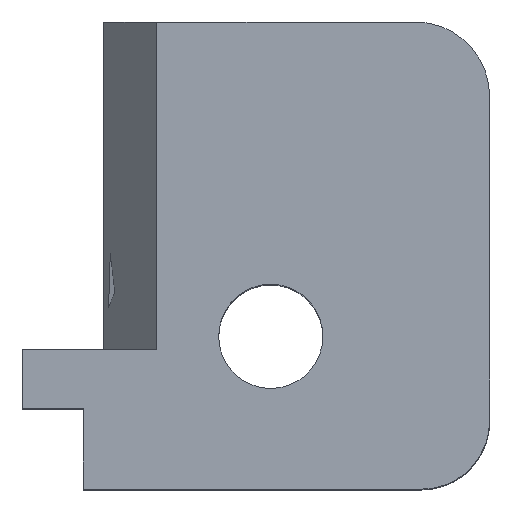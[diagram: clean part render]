
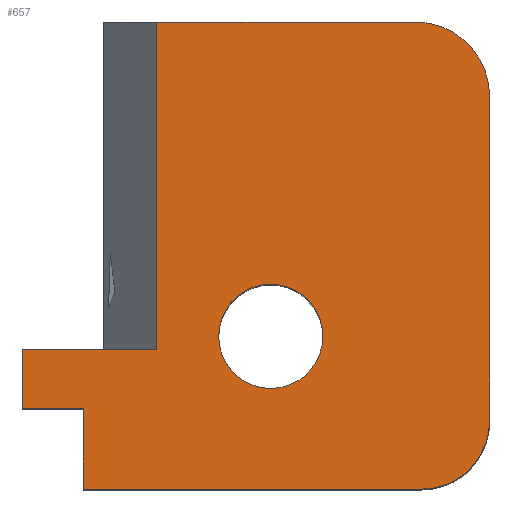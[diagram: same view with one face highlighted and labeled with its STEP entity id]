
A CAD part, top view. The second image highlights one B-rep face of the part: STEP entity #657.
In plain terms, the highlighted planar face has unit normal (0, 0, 1).
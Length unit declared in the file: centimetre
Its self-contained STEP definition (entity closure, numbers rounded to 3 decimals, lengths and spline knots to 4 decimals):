
#2 = DIRECTION ( 'NONE',  ( 1., 0., 0. ) ) ;
#3 = ORIENTED_EDGE ( 'NONE', *, *, #743, .F. ) ;
#20 = VERTEX_POINT ( 'NONE', #116 ) ;
#30 = DIRECTION ( 'NONE',  ( -1., 0., 0. ) ) ;
#42 = EDGE_CURVE ( 'NONE', #20, #742, #923, .T. ) ;
#49 = LINE ( 'NONE', #189, #850 ) ;
#51 = CARTESIAN_POINT ( 'NONE',  ( 1000., 145.7286, 1000. ) ) ;
#57 = EDGE_CURVE ( 'NONE', #753, #59, #259, .T. ) ;
#59 = VERTEX_POINT ( 'NONE', #51 ) ;
#66 = DIRECTION ( 'NONE',  ( 0., 0., -1. ) ) ;
#99 = EDGE_CURVE ( 'NONE', #536, #753, #265, .T. ) ;
#107 = DIRECTION ( 'NONE',  ( -1., 0., 0. ) ) ;
#116 = CARTESIAN_POINT ( 'NONE',  ( 287.7607, 300.0108, 1000. ) ) ;
#118 = CARTESIAN_POINT ( 'NONE',  ( 0., 1000., 1000. ) ) ;
#123 = DIRECTION ( 'NONE',  ( 1., 0., 0. ) ) ;
#136 = CARTESIAN_POINT ( 'NONE',  ( 531.6492, 327.0713, 1000. ) ) ;
#145 = ORIENTED_EDGE ( 'NONE', *, *, #229, .F. ) ;
#155 = EDGE_CURVE ( 'NONE', #726, #20, #663, .T. ) ;
#189 = CARTESIAN_POINT ( 'NONE',  ( 0., 172.3769, 1000. ) ) ;
#193 = FACE_BOUND ( 'NONE', #746, .T. ) ;
#195 = ORIENTED_EDGE ( 'NONE', *, *, #567, .T. ) ;
#203 = DIRECTION ( 'NONE',  ( 1., 0., 0. ) ) ;
#208 = VECTOR ( 'NONE', #203, 100. ) ;
#213 = CARTESIAN_POINT ( 'NONE',  ( 840.962, 840.962, 1000. ) ) ;
#225 = CIRCLE ( 'NONE', #884, 159.038 ) ;
#229 = EDGE_CURVE ( 'NONE', #536, #462, #655, .T. ) ;
#244 = AXIS2_PLACEMENT_3D ( 'NONE', #549, #402, #30 ) ;
#246 = CARTESIAN_POINT ( 'NONE',  ( 643.1665, 327.0713, 1000. ) ) ;
#258 = LINE ( 'NONE', #924, #495 ) ;
#259 = CIRCLE ( 'NONE', #287, 145.7286 ) ;
#263 = DIRECTION ( 'NONE',  ( 0., -1., 0. ) ) ;
#265 = LINE ( 'NONE', #930, #208 ) ;
#276 = DIRECTION ( 'NONE',  ( -1., 0., 0. ) ) ;
#287 = AXIS2_PLACEMENT_3D ( 'NONE', #861, #347, #629 ) ;
#295 = DIRECTION ( 'NONE',  ( 1., 0., 0. ) ) ;
#299 = VERTEX_POINT ( 'NONE', #246 ) ;
#305 = AXIS2_PLACEMENT_3D ( 'NONE', #136, #66, #744 ) ;
#347 = DIRECTION ( 'NONE',  ( 0., 0., 1. ) ) ;
#353 = CARTESIAN_POINT ( 'NONE',  ( 1000., 840.962, 1000. ) ) ;
#364 = CARTESIAN_POINT ( 'NONE',  ( 130.7544, 172.3769, 1000. ) ) ;
#383 = CARTESIAN_POINT ( 'NONE',  ( 1000., 1000., 1000. ) ) ;
#389 = DIRECTION ( 'NONE',  ( 0., 1., 0. ) ) ;
#402 = DIRECTION ( 'NONE',  ( 0., 0., -1. ) ) ;
#405 = LINE ( 'NONE', #118, #602 ) ;
#412 = CARTESIAN_POINT ( 'NONE',  ( 854.2714, 0., 1000. ) ) ;
#417 = DIRECTION ( 'NONE',  ( 0., 1., 0. ) ) ;
#427 = ORIENTED_EDGE ( 'NONE', *, *, #42, .F. ) ;
#430 = EDGE_CURVE ( 'NONE', #299, #577, #927, .T. ) ;
#438 = ORIENTED_EDGE ( 'NONE', *, *, #57, .T. ) ;
#462 = VERTEX_POINT ( 'NONE', #364 ) ;
#479 = CARTESIAN_POINT ( 'NONE',  ( 0., 172.3769, 1000. ) ) ;
#485 = DIRECTION ( 'NONE',  ( 0., 0., 1. ) ) ;
#487 = EDGE_CURVE ( 'NONE', #800, #521, #225, .T. ) ;
#495 = VECTOR ( 'NONE', #263, 100. ) ;
#505 = VECTOR ( 'NONE', #669, 100. ) ;
#521 = VERTEX_POINT ( 'NONE', #771 ) ;
#536 = VERTEX_POINT ( 'NONE', #545 ) ;
#540 = EDGE_CURVE ( 'NONE', #59, #800, #696, .T. ) ;
#543 = ORIENTED_EDGE ( 'NONE', *, *, #710, .T. ) ;
#545 = CARTESIAN_POINT ( 'NONE',  ( 130.7544, 0., 1000. ) ) ;
#549 = CARTESIAN_POINT ( 'NONE',  ( 531.6492, 327.0713, 1000. ) ) ;
#554 = ORIENTED_EDGE ( 'NONE', *, *, #540, .T. ) ;
#567 = EDGE_CURVE ( 'NONE', #577, #299, #854, .T. ) ;
#577 = VERTEX_POINT ( 'NONE', #840 ) ;
#590 = VECTOR ( 'NONE', #389, 100. ) ;
#602 = VECTOR ( 'NONE', #107, 100. ) ;
#604 = ORIENTED_EDGE ( 'NONE', *, *, #638, .T. ) ;
#625 = CARTESIAN_POINT ( 'NONE',  ( 0., 0., 1000. ) ) ;
#629 = DIRECTION ( 'NONE',  ( 1., 0., 0. ) ) ;
#638 = EDGE_CURVE ( 'NONE', #521, #742, #405, .T. ) ;
#645 = CARTESIAN_POINT ( 'NONE',  ( 287.7607, 300.0108, 1000. ) ) ;
#653 = DIRECTION ( 'NONE',  ( 0., 0., 1. ) ) ;
#655 = LINE ( 'NONE', #730, #505 ) ;
#656 = ORIENTED_EDGE ( 'NONE', *, *, #99, .T. ) ;
#657 = ADVANCED_FACE ( 'NONE', ( #698, #193 ), #789, .T. ) ;
#663 = LINE ( 'NONE', #873, #668 ) ;
#666 = ORIENTED_EDGE ( 'NONE', *, *, #155, .F. ) ;
#668 = VECTOR ( 'NONE', #2, 100. ) ;
#669 = DIRECTION ( 'NONE',  ( 0., 1., 0. ) ) ;
#677 = VERTEX_POINT ( 'NONE', #479 ) ;
#696 = LINE ( 'NONE', #383, #590 ) ;
#698 = FACE_OUTER_BOUND ( 'NONE', #701, .T. ) ;
#701 = EDGE_LOOP ( 'NONE', ( #427, #666, #543, #3, #145, #656, #438, #554, #763, #604 ) ) ;
#710 = EDGE_CURVE ( 'NONE', #726, #677, #258, .T. ) ;
#712 = CARTESIAN_POINT ( 'NONE',  ( 287.7607, 1000., 1000. ) ) ;
#726 = VERTEX_POINT ( 'NONE', #928 ) ;
#730 = CARTESIAN_POINT ( 'NONE',  ( 130.7544, 0., 1000. ) ) ;
#737 = ORIENTED_EDGE ( 'NONE', *, *, #430, .T. ) ;
#742 = VERTEX_POINT ( 'NONE', #712 ) ;
#743 = EDGE_CURVE ( 'NONE', #462, #677, #49, .T. ) ;
#744 = DIRECTION ( 'NONE',  ( -1., 0., 0. ) ) ;
#746 = EDGE_LOOP ( 'NONE', ( #195, #737 ) ) ;
#753 = VERTEX_POINT ( 'NONE', #412 ) ;
#763 = ORIENTED_EDGE ( 'NONE', *, *, #487, .T. ) ;
#771 = CARTESIAN_POINT ( 'NONE',  ( 840.962, 1000., 1000. ) ) ;
#789 = PLANE ( 'NONE',  #790 ) ;
#790 = AXIS2_PLACEMENT_3D ( 'NONE', #625, #485, #123 ) ;
#800 = VERTEX_POINT ( 'NONE', #353 ) ;
#840 = CARTESIAN_POINT ( 'NONE',  ( 420.1319, 327.0713, 1000. ) ) ;
#850 = VECTOR ( 'NONE', #276, 100. ) ;
#854 = CIRCLE ( 'NONE', #244, 111.5173 ) ;
#861 = CARTESIAN_POINT ( 'NONE',  ( 854.2714, 145.7286, 1000. ) ) ;
#872 = VECTOR ( 'NONE', #417, 100. ) ;
#873 = CARTESIAN_POINT ( 'NONE',  ( 0., 300.0108, 1000. ) ) ;
#884 = AXIS2_PLACEMENT_3D ( 'NONE', #213, #653, #295 ) ;
#923 = LINE ( 'NONE', #645, #872 ) ;
#924 = CARTESIAN_POINT ( 'NONE',  ( 0., 1000., 1000. ) ) ;
#927 = CIRCLE ( 'NONE', #305, 111.5173 ) ;
#928 = CARTESIAN_POINT ( 'NONE',  ( 0., 300.0108, 1000. ) ) ;
#930 = CARTESIAN_POINT ( 'NONE',  ( 0., 0., 1000. ) ) ;
